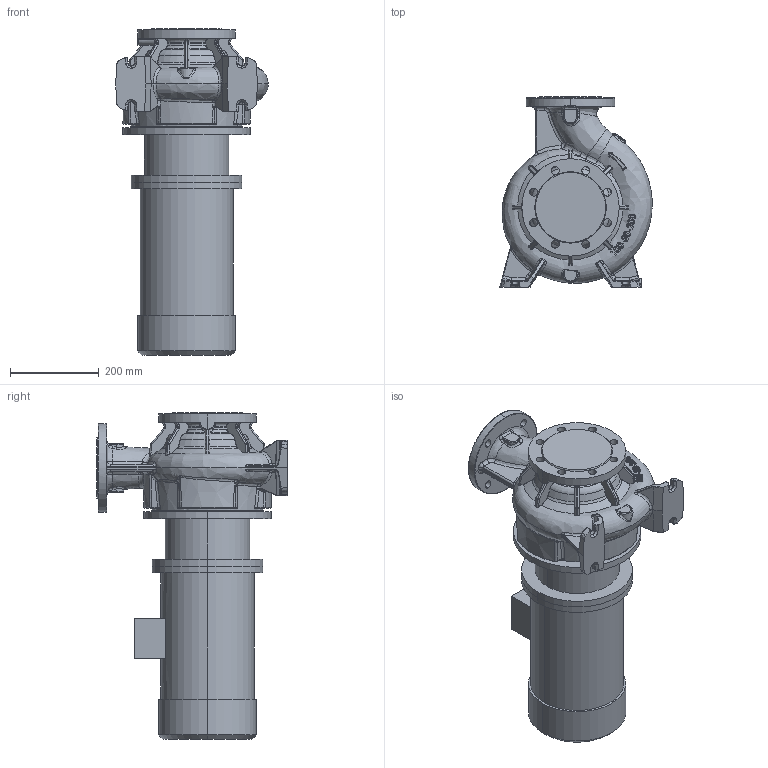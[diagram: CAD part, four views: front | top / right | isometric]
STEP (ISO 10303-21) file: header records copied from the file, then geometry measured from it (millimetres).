
FILE_DESCRIPTION (( 'STEP AP214' ), '1' );
FILE_NAME ('KRM 125-100-200-4-4.STEP', '2026-04-23T05:51:47', ( '' ), ( '' ), 'SwSTEP 2.0', 'SolidWorks 2016', '' );
FILE_SCHEMA (( 'AUTOMOTIVE_DESIGN' ));
Length unit declared in the file: millimetre
Products named in the file (1): KRM 125-100-200-4-4
Bounding box: 344.62 x 430 x 737.8 mm (x, y, z)
Volume: 33897496.2 mm3; surface area: 1336144.5 mm2
Topology: 14 solids, 14 shells, 1346 faces, 3217 edges, 1914 vertices
Faces by surface type: bspline 620, cylinder 296, plane 206, torus 119, cone 77, sphere 28
Entity records: 105662 total; most frequent: CARTESIAN_POINT 64257, ORIENTED_EDGE 6418, DIRECTION 4342, EDGE_CURVE 3209, VERTEX_POINT 1914, AXIS2_PLACEMENT_3D 1816, EDGE_LOOP 1407, UNCERTAINTY_MEASURE_WITH_UNIT 1362
